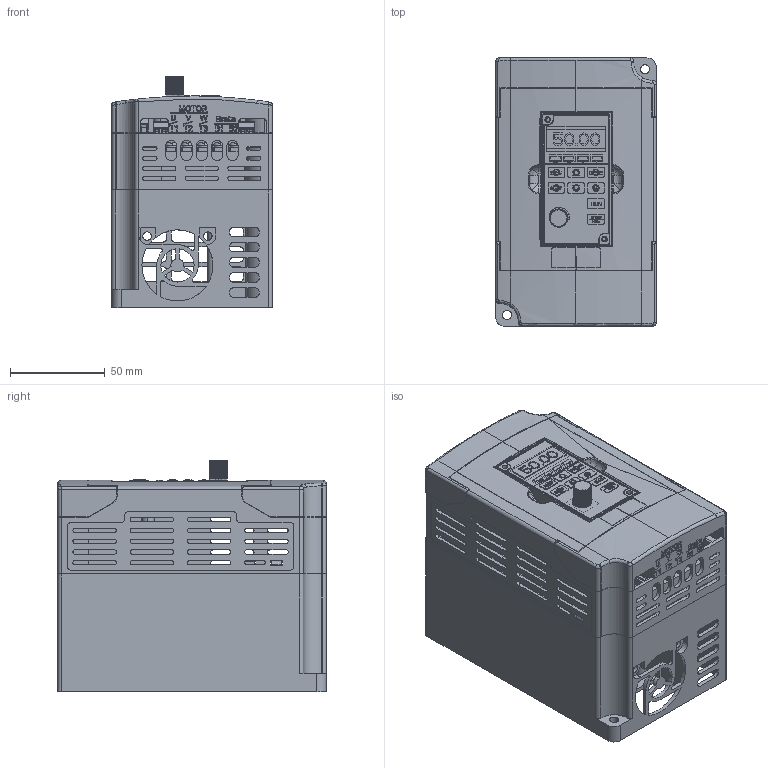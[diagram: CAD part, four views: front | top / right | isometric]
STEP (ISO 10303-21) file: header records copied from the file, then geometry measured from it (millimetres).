
FILE_DESCRIPTION (( 'STEP AP214' ), '1' );
FILE_NAME ('CV100-2S.STEP', '2016-06-07T22:13:08', ( '' ), ( '' ), 'SwSTEP 2.0', 'SolidWorks 2016', '' );
FILE_SCHEMA (( 'AUTOMOTIVE_DESIGN' ));
Length unit declared in the file: millimetre
Products named in the file (20): 2-2KW_KEYBOARD-BOTTOM; 2-2KW_PCB-ASM_ASM; KEY-PRESS_06XBX; LED_BQ-N296RD; 2-2KW_PCB-BOARD; 2-2KW_KEYBOARD-TOP; ED10-C_TOP-PLATE_ASM; ED10-C_TOP-PLATE-SMALL; ED10-C_TOP-PLATE-BIG; ED10-C_TOP-PLATE; ED10-C_DOWN-PLATE; Top board, CV100-2S; CV100-2S; 1727065; 1730023; Bottom board, CV100-2S; 2-2KW_KEYBOARD-ASM_ASM; ED102-2KW-KNOB; 2-2KW_LABEL
Assembly tree (26 placements, depth 4):
  CV100-2S
    ED10-C_DOWN-PLATE
    ED10-C_TOP-PLATE_ASM
      ED10-C_TOP-PLATE
      ED10-C_TOP-PLATE-BIG
      ED10-C_TOP-PLATE-SMALL
    2-2KW_KEYBOARD-ASM_ASM
      2-2KW_KEYBOARD-TOP
      2-2KW_PCB-ASM_ASM
        2-2KW_PCB-BOARD
        LED_BQ-N296RD
        KEY-PRESS_06XBX  x6
      2-2KW_KEYBOARD-BOTTOM
      2-2KW_LABEL
      ED102-2KW-KNOB
    Bottom board, CV100-2S
    Top board, CV100-2S
      Top board, CV100-2S
      1730023  x2
      1727065  x2
Bounding box: 85 x 142.05 x 122.47 mm (x, y, z)
Volume: 229100.7 mm3; surface area: 261467.1 mm2
Topology: 21 solids, 24 shells, 4829 faces, 13317 edges, 8766 vertices
Faces by surface type: plane 3281, cylinder 1073, bspline 290, cone 139, torus 46
Entity records: 182770 total; most frequent: CARTESIAN_POINT 47691, ORIENTED_EDGE 23510, DIRECTION 20312, EDGE_CURVE 11824, VECTOR 8442, LINE 8442, VERTEX_POINT 7823, AXIS2_PLACEMENT_3D 5935
